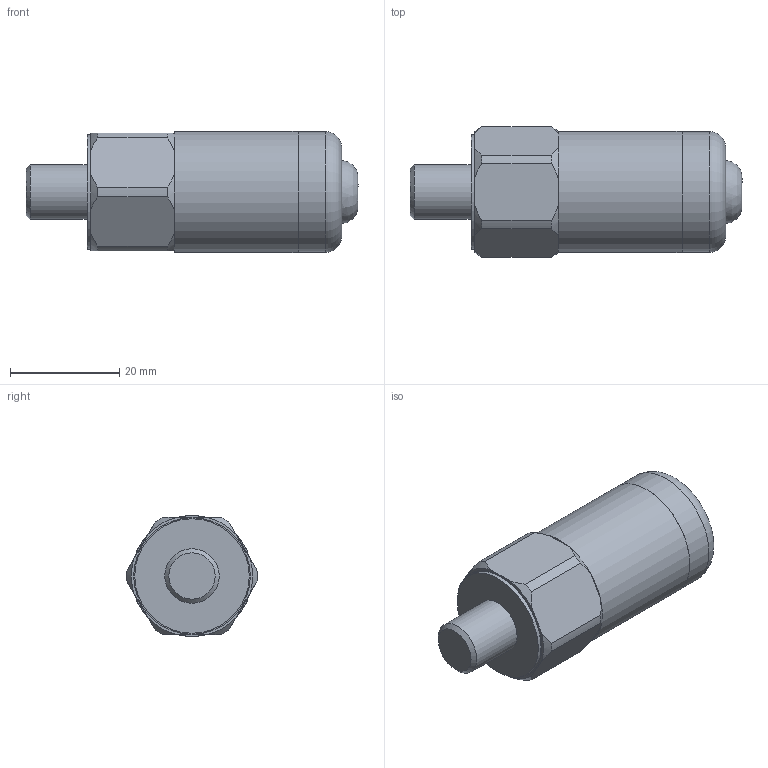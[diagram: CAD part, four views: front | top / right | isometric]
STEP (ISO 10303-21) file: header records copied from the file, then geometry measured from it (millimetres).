
FILE_DESCRIPTION(/* description */ (''),/* implementation_level */ '2;1');
FILE_NAME(/* name */ 'Z:\Engineering\Drawings\3D Library\Assemblies\Website\Premium Top\HS-150 Top Braided Cable\HS-150XXX0210.stp',/* time_stamp */ '2023-03-12T11:07:26+00:00',/* author */ ('Ricardo.Peneda'),/* organization */ (''),/* preprocessor_version */ 'ST-DEVELOPER v18.1',/* originating_system */ 'Autodesk Inventor 2021',/* authorisation */ '');
FILE_SCHEMA (('AUTOMOTIVE_DESIGN { 1 0 10303 214 3 1 1 }'));
Length unit declared in the file: inch
Products named in the file (1): HS-150XXX0210_Shrinkwrap_1
Bounding box: 60.9 x 23.99 x 22.2 mm (x, y, z)
Volume: 12969.8 mm3; surface area: 7363 mm2
Topology: 3 solids, 3 shells, 64 faces, 169 edges, 122 vertices
Faces by surface type: plane 29, cylinder 20, cone 13, torus 1, bspline 1
Full cylindrical faces by diameter (mm): 4.2 x1, 5 x1, 5.359 x1, 6.35 x1, 7.5 x1, 10 x1, 13.941 x1, 15.055 x1, 17.941 x1, 19.891 x1, 20 x1, 21 x1, 22.141 x1, 22.2 x1
Entity records: 2178 total; most frequent: CARTESIAN_POINT 429, DIRECTION 371, ORIENTED_EDGE 336, EDGE_CURVE 168, AXIS2_PLACEMENT_3D 163, VERTEX_POINT 122, CIRCLE 99, EDGE_LOOP 78
